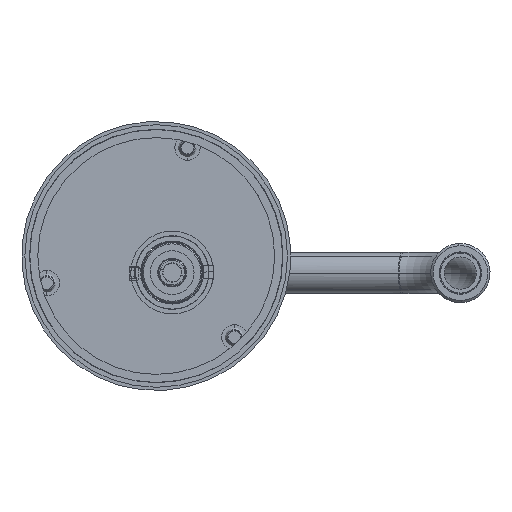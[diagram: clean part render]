
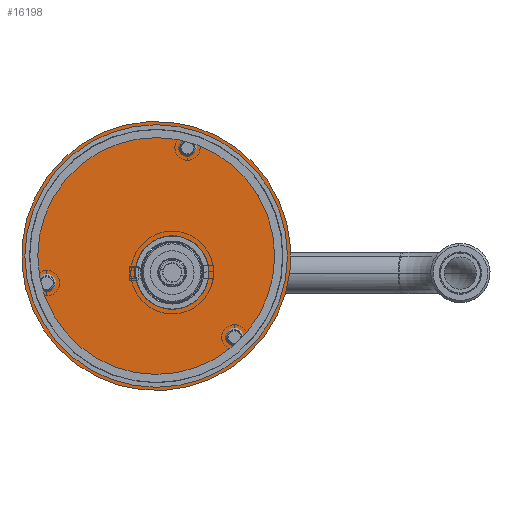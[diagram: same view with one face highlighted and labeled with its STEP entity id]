
A CAD part, left-side view. The second image highlights one B-rep face of the part: STEP entity #16198.
In plain terms, the highlighted planar face has unit normal (-1, 0, 0) as drawn and (0, 1, 0) by its records, which use the part's own axes.
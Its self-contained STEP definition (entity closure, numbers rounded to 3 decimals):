
#26 = CARTESIAN_POINT ( 'NONE',  ( 24.5, 2., 45.735 ) ) ;
#206 = CIRCLE ( 'NONE', #16169, 58.5 ) ;
#255 = VERTEX_POINT ( 'NONE', #10791 ) ;
#535 = EDGE_CURVE ( 'NONE', #255, #4016, #3988, .T. ) ;
#624 = ORIENTED_EDGE ( 'NONE', *, *, #759, .F. ) ;
#759 = EDGE_CURVE ( 'NONE', #8821, #9110, #2071, .T. ) ;
#827 = DIRECTION ( 'NONE',  ( 0., 1., 0. ) ) ;
#1716 = CARTESIAN_POINT ( 'NONE',  ( 0., 2., -58.5 ) ) ;
#1830 = EDGE_LOOP ( 'NONE', ( #11797, #6672 ) ) ;
#1878 = CIRCLE ( 'NONE', #6191, 3.3 ) ;
#2071 = CIRCLE ( 'NONE', #4252, 16. ) ;
#2161 = DIRECTION ( 'NONE',  ( 0., 1., 0. ) ) ;
#2391 = CIRCLE ( 'NONE', #11847, 3.3 ) ;
#2446 = AXIS2_PLACEMENT_3D ( 'NONE', #3795, #15298, #9869 ) ;
#2742 = EDGE_CURVE ( 'NONE', #4016, #255, #1878, .T. ) ;
#2795 = EDGE_LOOP ( 'NONE', ( #2875, #6641 ) ) ;
#2816 = CARTESIAN_POINT ( 'NONE',  ( 0., 2., 0. ) ) ;
#2822 = DIRECTION ( 'NONE',  ( 0., 1., 0. ) ) ;
#2875 = ORIENTED_EDGE ( 'NONE', *, *, #4997, .F. ) ;
#2992 = DIRECTION ( 'NONE',  ( 0., 1., 0. ) ) ;
#3067 = AXIS2_PLACEMENT_3D ( 'NONE', #11634, #7658, #11452 ) ;
#3444 = DIRECTION ( 'NONE',  ( 0., 0., 1. ) ) ;
#3795 = CARTESIAN_POINT ( 'NONE',  ( 24.5, 2., -42.435 ) ) ;
#3988 = CIRCLE ( 'NONE', #7759, 3.3 ) ;
#4016 = VERTEX_POINT ( 'NONE', #26 ) ;
#4023 = CARTESIAN_POINT ( 'NONE',  ( -49., 2., 3.3 ) ) ;
#4070 = AXIS2_PLACEMENT_3D ( 'NONE', #15861, #5627, #9664 ) ;
#4252 = AXIS2_PLACEMENT_3D ( 'NONE', #10556, #4284, #15789 ) ;
#4284 = DIRECTION ( 'NONE',  ( 0., 1., 0. ) ) ;
#4353 = DIRECTION ( 'NONE',  ( 0., 0., 1. ) ) ;
#4473 = FACE_BOUND ( 'NONE', #16378, .T. ) ;
#4727 = PLANE ( 'NONE',  #5829 ) ;
#4997 = EDGE_CURVE ( 'NONE', #14520, #8734, #2391, .T. ) ;
#5627 = DIRECTION ( 'NONE',  ( 0., 1., 0. ) ) ;
#5829 = AXIS2_PLACEMENT_3D ( 'NONE', #10835, #827, #13450 ) ;
#6169 = EDGE_CURVE ( 'NONE', #14973, #11729, #6418, .T. ) ;
#6191 = AXIS2_PLACEMENT_3D ( 'NONE', #13175, #2161, #7335 ) ;
#6418 = CIRCLE ( 'NONE', #15883, 3.3 ) ;
#6641 = ORIENTED_EDGE ( 'NONE', *, *, #15177, .F. ) ;
#6672 = ORIENTED_EDGE ( 'NONE', *, *, #2742, .F. ) ;
#6757 = EDGE_CURVE ( 'NONE', #10544, #10782, #206, .T. ) ;
#6881 = ORIENTED_EDGE ( 'NONE', *, *, #6757, .T. ) ;
#6954 = AXIS2_PLACEMENT_3D ( 'NONE', #15847, #2822, #4353 ) ;
#7076 = DIRECTION ( 'NONE',  ( 0., 0., 1. ) ) ;
#7166 = DIRECTION ( 'NONE',  ( 0., 1., 0. ) ) ;
#7335 = DIRECTION ( 'NONE',  ( 0., 0., 1. ) ) ;
#7415 = DIRECTION ( 'NONE',  ( 0., 1., 0. ) ) ;
#7541 = CARTESIAN_POINT ( 'NONE',  ( 24.5, 2., -39.135 ) ) ;
#7572 = CIRCLE ( 'NONE', #2446, 3.3 ) ;
#7588 = EDGE_CURVE ( 'NONE', #9110, #8821, #16679, .T. ) ;
#7653 = CIRCLE ( 'NONE', #3067, 3.3 ) ;
#7658 = DIRECTION ( 'NONE',  ( 0., 1., 0. ) ) ;
#7759 = AXIS2_PLACEMENT_3D ( 'NONE', #16138, #7166, #3444 ) ;
#8346 = CARTESIAN_POINT ( 'NONE',  ( -49., 2., 0. ) ) ;
#8684 = DIRECTION ( 'NONE',  ( 0., 0., 1. ) ) ;
#8734 = VERTEX_POINT ( 'NONE', #4023 ) ;
#8821 = VERTEX_POINT ( 'NONE', #15009 ) ;
#9110 = VERTEX_POINT ( 'NONE', #15586 ) ;
#9186 = CIRCLE ( 'NONE', #4070, 58.5 ) ;
#9664 = DIRECTION ( 'NONE',  ( 0., 0., 1. ) ) ;
#9843 = EDGE_CURVE ( 'NONE', #11729, #14973, #7572, .T. ) ;
#9850 = CARTESIAN_POINT ( 'NONE',  ( 24.5, 2., -45.735 ) ) ;
#9869 = DIRECTION ( 'NONE',  ( 0., 0., 1. ) ) ;
#10543 = ORIENTED_EDGE ( 'NONE', *, *, #7588, .F. ) ;
#10544 = VERTEX_POINT ( 'NONE', #1716 ) ;
#10556 = CARTESIAN_POINT ( 'NONE',  ( -10., 2., 0. ) ) ;
#10782 = VERTEX_POINT ( 'NONE', #15988 ) ;
#10791 = CARTESIAN_POINT ( 'NONE',  ( 24.5, 2., 39.135 ) ) ;
#10832 = ORIENTED_EDGE ( 'NONE', *, *, #6169, .F. ) ;
#10835 = CARTESIAN_POINT ( 'NONE',  ( 0., 2., 0. ) ) ;
#10907 = FACE_OUTER_BOUND ( 'NONE', #13437, .T. ) ;
#11135 = CARTESIAN_POINT ( 'NONE',  ( 24.5, 2., -42.435 ) ) ;
#11452 = DIRECTION ( 'NONE',  ( 0., 0., 1. ) ) ;
#11634 = CARTESIAN_POINT ( 'NONE',  ( -49., 2., 0. ) ) ;
#11729 = VERTEX_POINT ( 'NONE', #7541 ) ;
#11797 = ORIENTED_EDGE ( 'NONE', *, *, #535, .F. ) ;
#11847 = AXIS2_PLACEMENT_3D ( 'NONE', #8346, #14449, #7076 ) ;
#11945 = DIRECTION ( 'NONE',  ( 0., 0., 1. ) ) ;
#12001 = CARTESIAN_POINT ( 'NONE',  ( -49., 2., -3.3 ) ) ;
#12570 = EDGE_CURVE ( 'NONE', #10782, #10544, #9186, .T. ) ;
#13175 = CARTESIAN_POINT ( 'NONE',  ( 24.5, 2., 42.435 ) ) ;
#13365 = FACE_BOUND ( 'NONE', #14175, .T. ) ;
#13437 = EDGE_LOOP ( 'NONE', ( #6881, #13923 ) ) ;
#13450 = DIRECTION ( 'NONE',  ( 0., 0., 1. ) ) ;
#13621 = FACE_BOUND ( 'NONE', #2795, .T. ) ;
#13923 = ORIENTED_EDGE ( 'NONE', *, *, #12570, .T. ) ;
#14175 = EDGE_LOOP ( 'NONE', ( #10832, #16630 ) ) ;
#14449 = DIRECTION ( 'NONE',  ( 0., 1., 0. ) ) ;
#14520 = VERTEX_POINT ( 'NONE', #12001 ) ;
#14973 = VERTEX_POINT ( 'NONE', #9850 ) ;
#14986 = FACE_BOUND ( 'NONE', #1830, .T. ) ;
#15009 = CARTESIAN_POINT ( 'NONE',  ( -10., 2., 16. ) ) ;
#15177 = EDGE_CURVE ( 'NONE', #8734, #14520, #7653, .T. ) ;
#15298 = DIRECTION ( 'NONE',  ( 0., 1., 0. ) ) ;
#15586 = CARTESIAN_POINT ( 'NONE',  ( -10., 2., -16. ) ) ;
#15789 = DIRECTION ( 'NONE',  ( 0., 0., 1. ) ) ;
#15847 = CARTESIAN_POINT ( 'NONE',  ( -10., 2., 0. ) ) ;
#15861 = CARTESIAN_POINT ( 'NONE',  ( 0., 2., 0. ) ) ;
#15883 = AXIS2_PLACEMENT_3D ( 'NONE', #11135, #7415, #8684 ) ;
#15988 = CARTESIAN_POINT ( 'NONE',  ( 0., 2., 58.5 ) ) ;
#16138 = CARTESIAN_POINT ( 'NONE',  ( 24.5, 2., 42.435 ) ) ;
#16169 = AXIS2_PLACEMENT_3D ( 'NONE', #2816, #2992, #11945 ) ;
#16198 = ADVANCED_FACE ( 'NONE', ( #14986, #4473, #10907, #13621, #13365 ), #4727, .T. ) ;
#16378 = EDGE_LOOP ( 'NONE', ( #10543, #624 ) ) ;
#16630 = ORIENTED_EDGE ( 'NONE', *, *, #9843, .F. ) ;
#16679 = CIRCLE ( 'NONE', #6954, 16. ) ;
